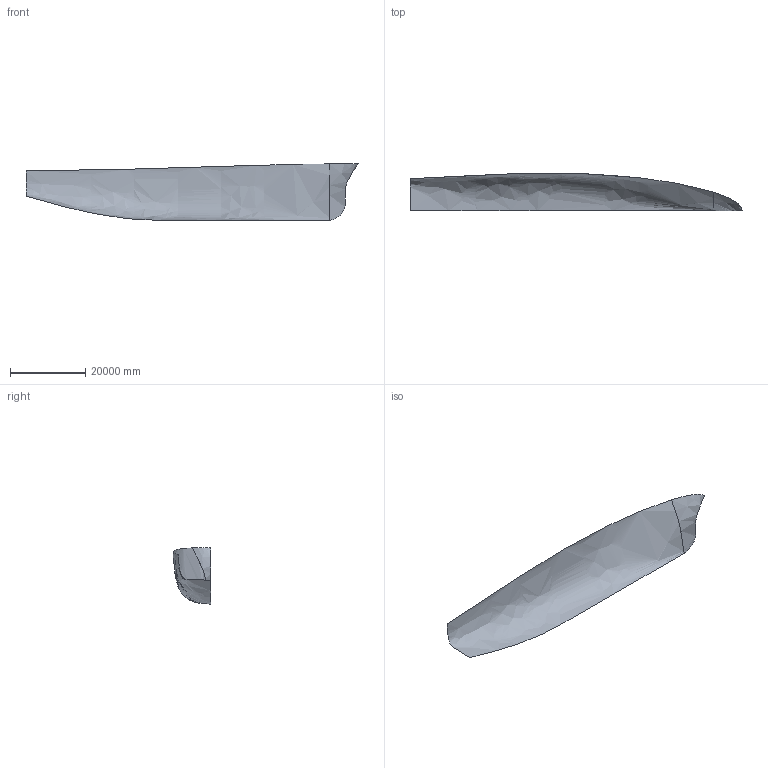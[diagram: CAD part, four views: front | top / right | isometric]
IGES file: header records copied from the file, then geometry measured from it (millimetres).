
Global section: file name: /homes/saturn/users/wenzke/Projects/FFWDevelopment/Samples/basicosv.iges; native system: HarmonyWare Translators; preprocessor: HarmonyWare IGES v1.9.13; date: 20150225.135057; units: metre
Bounding box: 88372.7 x 9921.96 x 14972.93 mm (x, y, z)
Surface area: 1528582023.9 mm2 (no closed solid volume)
Topology: 0 solids, 0 shells, 2 faces, 8 edges, 7 vertices
Faces by surface type: bspline 2
